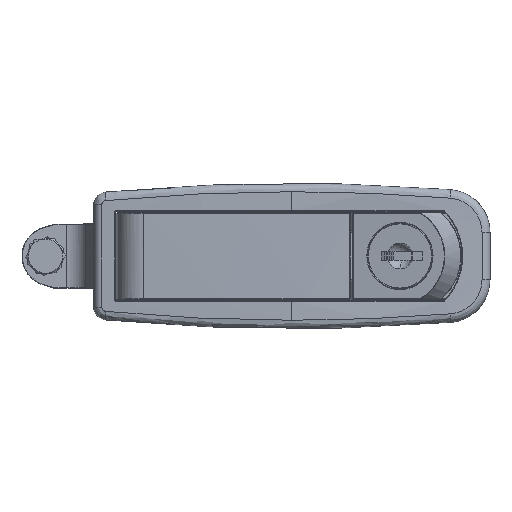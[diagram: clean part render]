
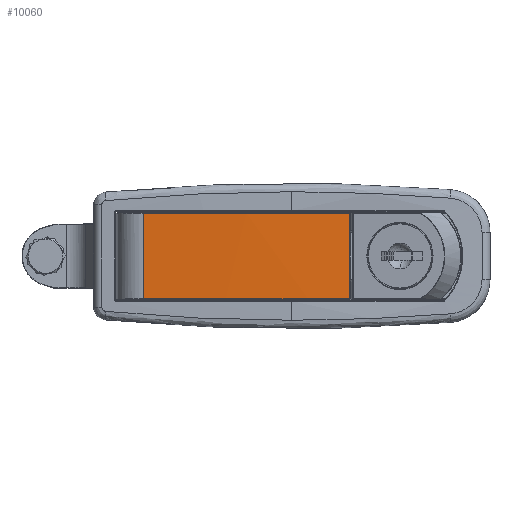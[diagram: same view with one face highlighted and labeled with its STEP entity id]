
A CAD part, top view. The second image highlights one B-rep face of the part: STEP entity #10060.
In plain terms, the highlighted cylindrical face has radius 630 mm (diameter 1260 mm), a partial arc.
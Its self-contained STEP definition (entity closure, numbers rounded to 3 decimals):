
#283 = DIRECTION ( 'NONE',  ( -1., 0., 0. ) ) ;
#1798 =( BOUNDED_CURVE ( )  B_SPLINE_CURVE ( 3, ( #41382, #36299, #23582, #45365 ),
 .UNSPECIFIED., .F., .F. ) 
 B_SPLINE_CURVE_WITH_KNOTS ( ( 4, 4 ),
 ( 0., 0.015 ),
 .UNSPECIFIED. ) 
 CURVE ( )  GEOMETRIC_REPRESENTATION_ITEM ( )  RATIONAL_B_SPLINE_CURVE ( ( 1., 1., 1., 1. ) ) 
 REPRESENTATION_ITEM ( '' )  );
#4173 = CARTESIAN_POINT ( 'NONE',  ( -0.12, 4.902, -10.008 ) ) ;
#5179 = CARTESIAN_POINT ( 'NONE',  ( -48.252, 3.8, 10.15 ) ) ;
#7125 = VERTEX_POINT ( 'NONE', #52005 ) ;
#7943 = CARTESIAN_POINT ( 'NONE',  ( -9.778, -625.024, 10.15 ) ) ;
#8289 = EDGE_CURVE ( 'NONE', #50947, #47972, #27767, .T. ) ;
#9173 = CARTESIAN_POINT ( 'NONE',  ( -48.252, 3.8, -10.018 ) ) ;
#9707 = DIRECTION ( 'NONE',  ( 0., 0., -1. ) ) ;
#9846 = VERTEX_POINT ( 'NONE', #39694 ) ;
#10060 = ADVANCED_FACE ( 'NONE', ( #26337 ), #17524, .T. ) ;
#13275 = ORIENTED_EDGE ( 'NONE', *, *, #34435, .T. ) ;
#16264 = CARTESIAN_POINT ( 'NONE',  ( -16.174, 5.148, -10.006 ) ) ;
#16527 = ORIENTED_EDGE ( 'NONE', *, *, #8289, .T. ) ;
#17524 = CYLINDRICAL_SURFACE ( 'NONE', #28824, 630. ) ;
#18855 = ORIENTED_EDGE ( 'NONE', *, *, #31027, .T. ) ;
#19448 =( BOUNDED_CURVE ( )  B_SPLINE_CURVE ( 3, ( #55034, #16264, #33532, #9173 ),
 .UNSPECIFIED., .F., .F. ) 
 B_SPLINE_CURVE_WITH_KNOTS ( ( 4, 4 ),
 ( 3.126, 3.203 ),
 .UNSPECIFIED. ) 
 CURVE ( )  GEOMETRIC_REPRESENTATION_ITEM ( )  RATIONAL_B_SPLINE_CURVE ( ( 1., 1., 1., 1. ) ) 
 REPRESENTATION_ITEM ( '' )  );
#19487 = EDGE_CURVE ( 'NONE', #54147, #9846, #48907, .T. ) ;
#20218 = CARTESIAN_POINT ( 'NONE',  ( -48.252, 3.8, 10.018 ) ) ;
#23582 = CARTESIAN_POINT ( 'NONE',  ( -3.339, 4.951, 10.008 ) ) ;
#24851 = CARTESIAN_POINT ( 'NONE',  ( -48.252, 3.8, 10.018 ) ) ;
#26018 = CARTESIAN_POINT ( 'NONE',  ( -0.12, 4.902, 10.008 ) ) ;
#26337 = FACE_OUTER_BOUND ( 'NONE', #28964, .T. ) ;
#27767 = LINE ( 'NONE', #31162, #35904 ) ;
#28824 = AXIS2_PLACEMENT_3D ( 'NONE', #7943, #29484, #283 ) ;
#28964 = EDGE_LOOP ( 'NONE', ( #35365, #35569, #18855, #16527, #13275 ) ) ;
#29484 = DIRECTION ( 'NONE',  ( 0., 0., -1. ) ) ;
#31027 = EDGE_CURVE ( 'NONE', #9846, #50947, #1798, .T. ) ;
#31162 = CARTESIAN_POINT ( 'NONE',  ( -0.12, 4.902, 10.15 ) ) ;
#33249 = CARTESIAN_POINT ( 'NONE',  ( -22.613, 4.976, 10.007 ) ) ;
#33532 = CARTESIAN_POINT ( 'NONE',  ( -32.226, 4.781, -10.009 ) ) ;
#34435 = EDGE_CURVE ( 'NONE', #47972, #7125, #19448, .T. ) ;
#35365 = ORIENTED_EDGE ( 'NONE', *, *, #35982, .F. ) ;
#35569 = ORIENTED_EDGE ( 'NONE', *, *, #19487, .T. ) ;
#35904 = VECTOR ( 'NONE', #45020, 1000. ) ;
#35982 = EDGE_CURVE ( 'NONE', #54147, #7125, #36022, .T. ) ;
#36022 = LINE ( 'NONE', #5179, #44848 ) ;
#36299 = CARTESIAN_POINT ( 'NONE',  ( -6.559, 4.976, 10.007 ) ) ;
#38330 = CARTESIAN_POINT ( 'NONE',  ( -9.778, 4.976, 10.007 ) ) ;
#39694 = CARTESIAN_POINT ( 'NONE',  ( -9.778, 4.976, 10.007 ) ) ;
#41382 = CARTESIAN_POINT ( 'NONE',  ( -9.778, 4.976, 10.007 ) ) ;
#42015 = CARTESIAN_POINT ( 'NONE',  ( -35.442, 4.584, 10.011 ) ) ;
#44848 = VECTOR ( 'NONE', #9707, 1000. ) ;
#45020 = DIRECTION ( 'NONE',  ( 0., 0., -1. ) ) ;
#45365 = CARTESIAN_POINT ( 'NONE',  ( -0.12, 4.902, 10.008 ) ) ;
#47972 = VERTEX_POINT ( 'NONE', #4173 ) ;
#48907 =( BOUNDED_CURVE ( )  B_SPLINE_CURVE ( 3, ( #20218, #42015, #33249, #38330 ),
 .UNSPECIFIED., .F., .F. ) 
 B_SPLINE_CURVE_WITH_KNOTS ( ( 4, 4 ),
 ( 6.222, 6.283 ),
 .UNSPECIFIED. ) 
 CURVE ( )  GEOMETRIC_REPRESENTATION_ITEM ( )  RATIONAL_B_SPLINE_CURVE ( ( 1., 1., 1., 1. ) ) 
 REPRESENTATION_ITEM ( '' )  );
#50947 = VERTEX_POINT ( 'NONE', #26018 ) ;
#52005 = CARTESIAN_POINT ( 'NONE',  ( -48.252, 3.8, -10.018 ) ) ;
#54147 = VERTEX_POINT ( 'NONE', #24851 ) ;
#55034 = CARTESIAN_POINT ( 'NONE',  ( -0.12, 4.902, -10.008 ) ) ;
